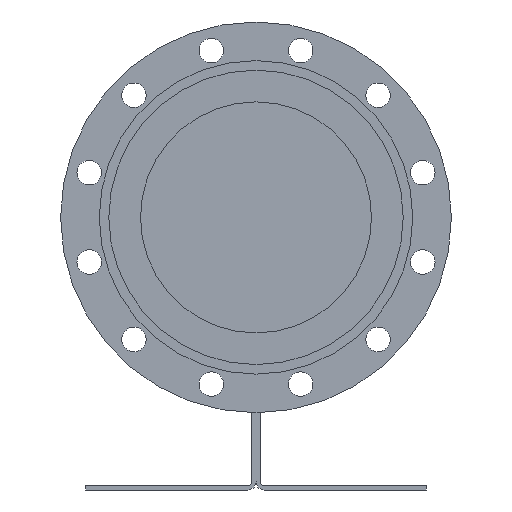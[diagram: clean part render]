
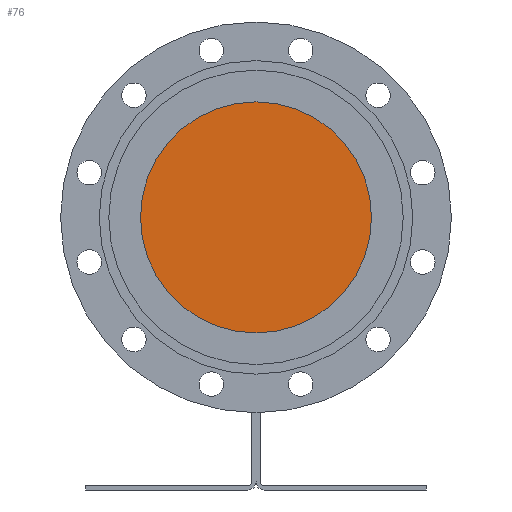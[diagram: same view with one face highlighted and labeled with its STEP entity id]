
A CAD part, left-side view. The second image highlights one B-rep face of the part: STEP entity #76.
In plain terms, the highlighted planar face has unit normal (-1, 0, 0).
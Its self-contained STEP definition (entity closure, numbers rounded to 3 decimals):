
#76=ADVANCED_FACE('',(#599),#598,.T.);
#598=PLANE('',#1810);
#599=FACE_OUTER_BOUND('',#1811,.T.);
#1807=CARTESIAN_POINT('',(-56.5,-230.144,-264.2));
#1808=DIRECTION('',(-1.,0.,0.));
#1809=DIRECTION('',(0.,0.,1.));
#1810=AXIS2_PLACEMENT_3D('',#1807,#1808,#1809);
#1811=EDGE_LOOP('',(#2597,#2598));
#2597=ORIENTED_EDGE('',*,*,#3245,.F.);
#2598=ORIENTED_EDGE('',*,*,#3246,.F.);
#3245=EDGE_CURVE('',#4971,#4972,#4973,.T.);
#3246=EDGE_CURVE('',#4972,#4971,#4979,.T.);
#4971=VERTEX_POINT('',#6769);
#4972=VERTEX_POINT('',#6770);
#4973=CIRCLE('',#6774,127.1);
#4979=CIRCLE('',#6778,127.1);
#6769=CARTESIAN_POINT('',(-56.5,0.,-127.1));
#6770=CARTESIAN_POINT('',(-56.5,0.,127.1));
#6771=CARTESIAN_POINT('',(-56.5,0.,0.));
#6772=DIRECTION('',(1.,0.,0.));
#6773=DIRECTION('',(0.,0.,1.));
#6774=AXIS2_PLACEMENT_3D('',#6771,#6772,#6773);
#6775=CARTESIAN_POINT('',(-56.5,0.,0.));
#6776=DIRECTION('',(1.,0.,0.));
#6777=DIRECTION('',(0.,0.,1.));
#6778=AXIS2_PLACEMENT_3D('',#6775,#6776,#6777);
